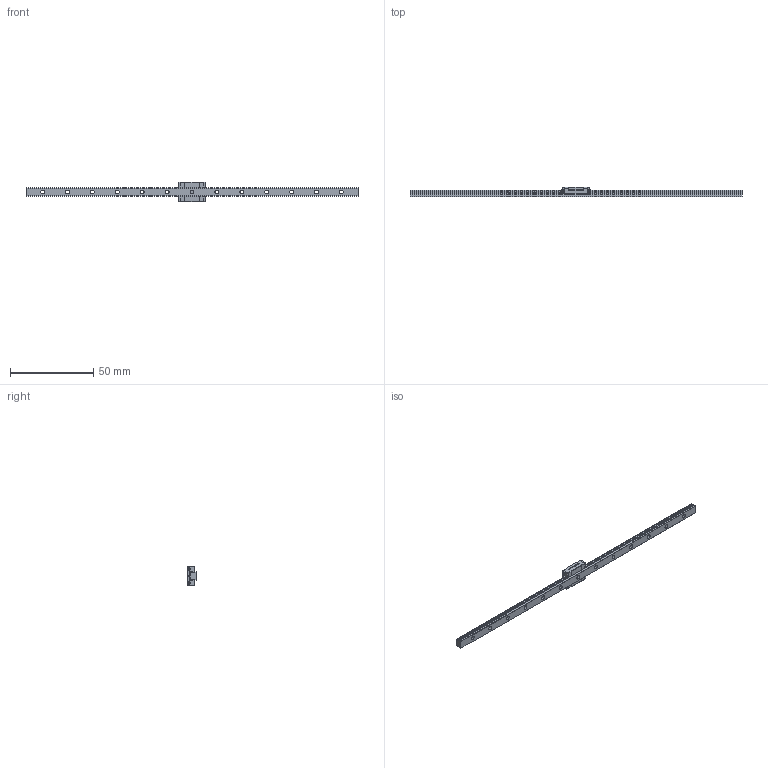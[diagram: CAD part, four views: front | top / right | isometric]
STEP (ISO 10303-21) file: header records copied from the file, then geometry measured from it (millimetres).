
FILE_DESCRIPTION( ( '' ), '1' );
FILE_NAME( 'C:/Users/v3-771-32344/Documents/Website 2016/STEP/SRS5M1UU20010091.55000.stp', '2016-11-10T13:08:05', ( '' ), ( '' ), ' ', ' ', ' ' );
FILE_SCHEMA( ( 'CONFIG_CONTROL_DESIGN' ) );
Length unit declared in the file: millimetre
Products named in the file (2): 1; 2
Bounding box: 200 x 6 x 12 mm (x, y, z)
Volume: 4095.5 mm3; surface area: 4606.9 mm2
Topology: 2 solids, 2 shells, 275 faces, 748 edges, 494 vertices
Faces by surface type: plane 177, cylinder 82, torus 8, cone 8
Entity records: 8854 total; most frequent: CARTESIAN_POINT 1707, ORIENTED_EDGE 1488, DIRECTION 1434, EDGE_CURVE 744, VERTEX_POINT 494, LINE 480, VECTOR 480, AXIS2_PLACEMENT_3D 477
